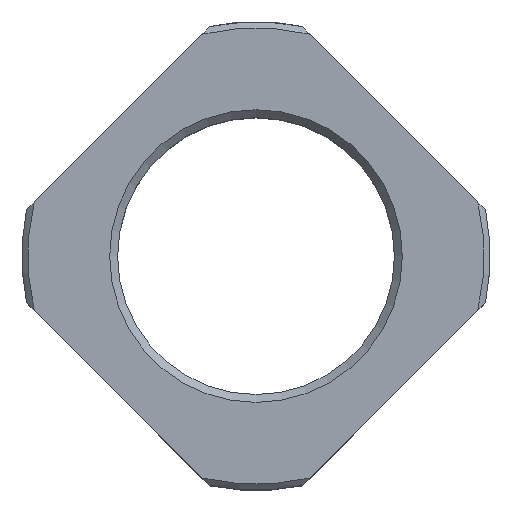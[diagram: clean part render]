
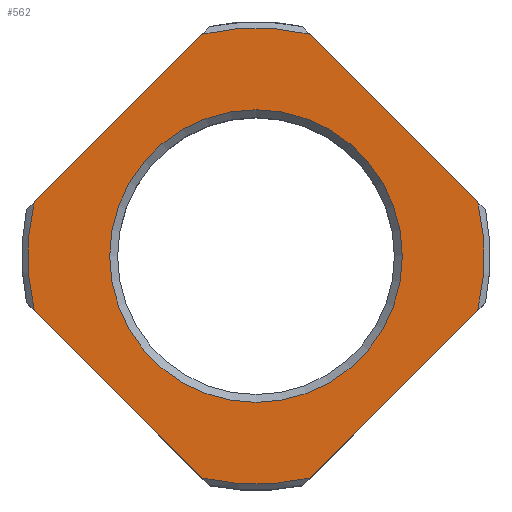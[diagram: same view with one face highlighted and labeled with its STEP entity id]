
A CAD part, top view. The second image highlights one B-rep face of the part: STEP entity #562.
In plain terms, the highlighted planar face has unit normal (0, 0, 1).
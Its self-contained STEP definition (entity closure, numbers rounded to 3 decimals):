
#32=PLANE('',#617);
#50=LINE('',#878,#84);
#51=LINE('',#882,#85);
#52=LINE('',#886,#86);
#53=LINE('',#890,#87);
#84=VECTOR('',#697,1000.);
#85=VECTOR('',#700,1000.);
#86=VECTOR('',#703,1000.);
#87=VECTOR('',#706,1000.);
#146=ORIENTED_EDGE('',*,*,#300,.F.);
#147=ORIENTED_EDGE('',*,*,#301,.T.);
#148=ORIENTED_EDGE('',*,*,#302,.F.);
#149=ORIENTED_EDGE('',*,*,#303,.T.);
#150=ORIENTED_EDGE('',*,*,#304,.F.);
#151=ORIENTED_EDGE('',*,*,#305,.T.);
#152=ORIENTED_EDGE('',*,*,#306,.F.);
#153=ORIENTED_EDGE('',*,*,#307,.T.);
#154=ORIENTED_EDGE('',*,*,#308,.T.);
#300=EDGE_CURVE('',#378,#379,#430,.T.);
#301=EDGE_CURVE('',#378,#380,#50,.T.);
#302=EDGE_CURVE('',#381,#380,#431,.T.);
#303=EDGE_CURVE('',#381,#382,#51,.T.);
#304=EDGE_CURVE('',#383,#382,#432,.T.);
#305=EDGE_CURVE('',#383,#384,#52,.T.);
#306=EDGE_CURVE('',#385,#384,#433,.T.);
#307=EDGE_CURVE('',#385,#379,#53,.T.);
#308=EDGE_CURVE('',#386,#386,#434,.T.);
#378=VERTEX_POINT('',#876);
#379=VERTEX_POINT('',#877);
#380=VERTEX_POINT('',#879);
#381=VERTEX_POINT('',#881);
#382=VERTEX_POINT('',#883);
#383=VERTEX_POINT('',#885);
#384=VERTEX_POINT('',#887);
#385=VERTEX_POINT('',#889);
#386=VERTEX_POINT('',#892);
#430=CIRCLE('',#618,23.4);
#431=CIRCLE('',#619,23.4);
#432=CIRCLE('',#620,23.4);
#433=CIRCLE('',#621,23.4);
#434=CIRCLE('',#622,15.);
#459=EDGE_LOOP('',(#146,#147,#148,#149,#150,#151,#152,#153));
#460=EDGE_LOOP('',(#154));
#509=FACE_BOUND('',#459,.T.);
#510=FACE_BOUND('',#460,.T.);
#562=ADVANCED_FACE('',(#509,#510),#32,.F.);
#617=AXIS2_PLACEMENT_3D('',#874,#693,#694);
#618=AXIS2_PLACEMENT_3D('',#875,#695,#696);
#619=AXIS2_PLACEMENT_3D('',#880,#698,#699);
#620=AXIS2_PLACEMENT_3D('',#884,#701,#702);
#621=AXIS2_PLACEMENT_3D('',#888,#704,#705);
#622=AXIS2_PLACEMENT_3D('',#891,#707,#708);
#693=DIRECTION('',(0.,0.,-1.));
#694=DIRECTION('',(-1.,0.,0.));
#695=DIRECTION('',(0.,0.,-1.));
#696=DIRECTION('',(-1.,0.,0.));
#697=DIRECTION('',(-0.707,-0.707,0.));
#698=DIRECTION('',(0.,0.,-1.));
#699=DIRECTION('',(-1.,0.,0.));
#700=DIRECTION('',(0.707,-0.707,0.));
#701=DIRECTION('',(0.,0.,-1.));
#702=DIRECTION('',(-1.,0.,0.));
#703=DIRECTION('',(0.707,0.707,0.));
#704=DIRECTION('',(0.,0.,-1.));
#705=DIRECTION('',(-1.,0.,0.));
#706=DIRECTION('',(-0.707,0.707,0.));
#707=DIRECTION('',(0.,0.,-1.));
#708=DIRECTION('',(-1.,0.,0.));
#874=CARTESIAN_POINT('',(0.,0.,20.));
#875=CARTESIAN_POINT('',(0.,0.,20.));
#876=CARTESIAN_POINT('',(-5.553,22.732,20.));
#877=CARTESIAN_POINT('',(5.553,22.732,20.));
#878=CARTESIAN_POINT('',(0.,28.284,20.));
#879=CARTESIAN_POINT('',(-22.732,5.553,20.));
#880=CARTESIAN_POINT('',(0.,0.,20.));
#881=CARTESIAN_POINT('',(-22.732,-5.553,20.));
#882=CARTESIAN_POINT('',(-28.284,0.,20.));
#883=CARTESIAN_POINT('',(-5.553,-22.732,20.));
#884=CARTESIAN_POINT('',(0.,0.,20.));
#885=CARTESIAN_POINT('',(5.553,-22.732,20.));
#886=CARTESIAN_POINT('',(0.,-28.284,20.));
#887=CARTESIAN_POINT('',(22.732,-5.553,20.));
#888=CARTESIAN_POINT('',(0.,0.,20.));
#889=CARTESIAN_POINT('',(22.732,5.553,20.));
#890=CARTESIAN_POINT('',(28.284,0.,20.));
#891=CARTESIAN_POINT('',(0.,0.,20.));
#892=CARTESIAN_POINT('',(-15.,0.,20.));
